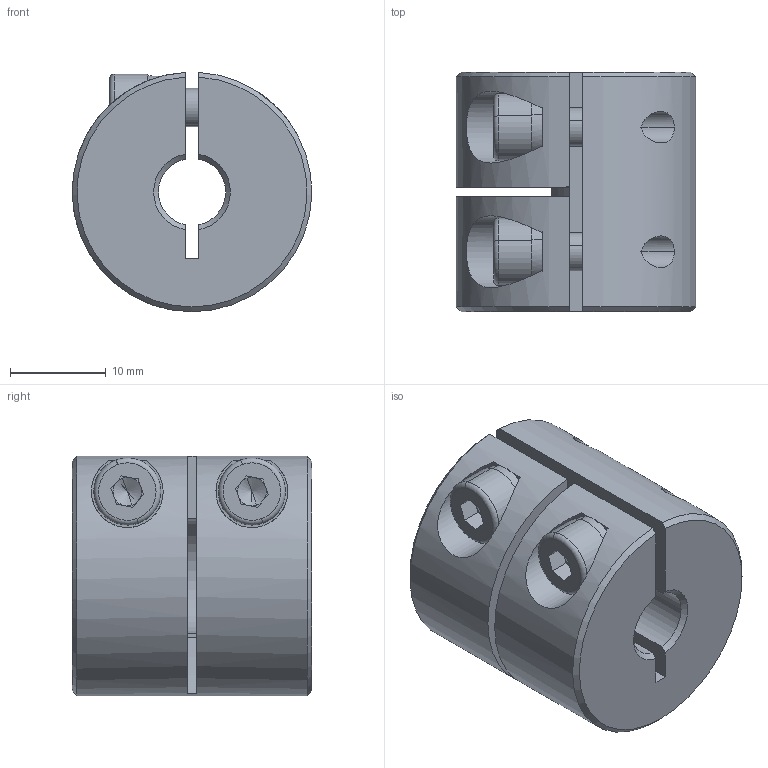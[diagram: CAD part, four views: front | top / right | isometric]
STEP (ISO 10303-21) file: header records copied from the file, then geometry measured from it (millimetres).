
FILE_DESCRIPTION (( 'STEP AP203' ), '1' );
FILE_NAME ('LL-B-D25L25-7-12.STEP', '2021-11-05T06:36:40', ( '' ), ( '' ), 'SwSTEP 2.0', 'SolidWorks 2018', '' );
FILE_SCHEMA (( 'CONFIG_CONTROL_DESIGN' ));
Length unit declared in the file: millimetre
Products named in the file (1): LL-B-D25L25-7-12
Bounding box: 24.99 x 25 x 24.98 mm (x, y, z)
Volume: 9616.3 mm3; surface area: 4949.5 mm2
Topology: 1 solids, 1 shells, 104 faces, 270 edges, 170 vertices
Faces by surface type: plane 52, cylinder 37, cone 11, torus 4
Entity records: 3471 total; most frequent: CARTESIAN_POINT 815, DIRECTION 560, ORIENTED_EDGE 532, EDGE_CURVE 266, AXIS2_PLACEMENT_3D 215, VERTEX_POINT 170, VECTOR 130, LINE 130
